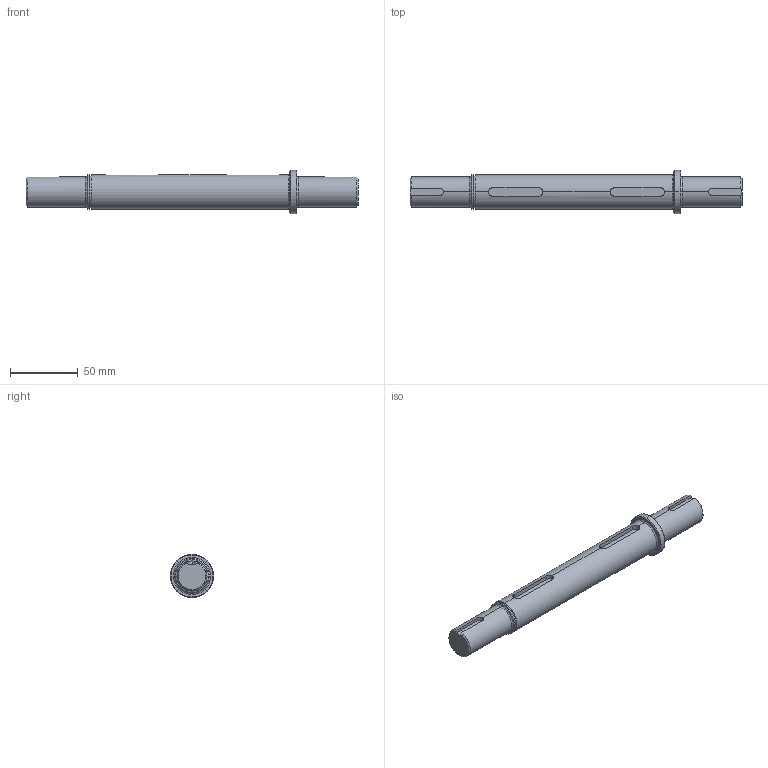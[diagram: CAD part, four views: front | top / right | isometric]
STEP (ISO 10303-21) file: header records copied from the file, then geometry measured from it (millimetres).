
FILE_DESCRIPTION (( 'STEP AP203' ), '1' );
FILE_NAME ('SSHdR175-OPS-DS.STEP', '2023-01-07T00:45:17', ( '' ), ( '' ), 'SwSTEP 2.0', 'SolidWorks 2012', '' );
FILE_SCHEMA (( 'CONFIG_CONTROL_DESIGN' ));
Length unit declared in the file: millimetre
Products named in the file (1): SSHdR175-OPS-DS
Bounding box: 245.28 x 32 x 32 mm (x, y, z)
Volume: 112605.3 mm3; surface area: 21020.1 mm2
Topology: 1 solids, 1 shells, 55 faces, 128 edges, 80 vertices
Faces by surface type: cylinder 21, plane 19, cone 9, torus 6
Entity records: 1817 total; most frequent: CARTESIAN_POINT 468, DIRECTION 278, ORIENTED_EDGE 256, EDGE_CURVE 128, AXIS2_PLACEMENT_3D 110, VERTEX_POINT 80, EDGE_LOOP 60, LINE 58
